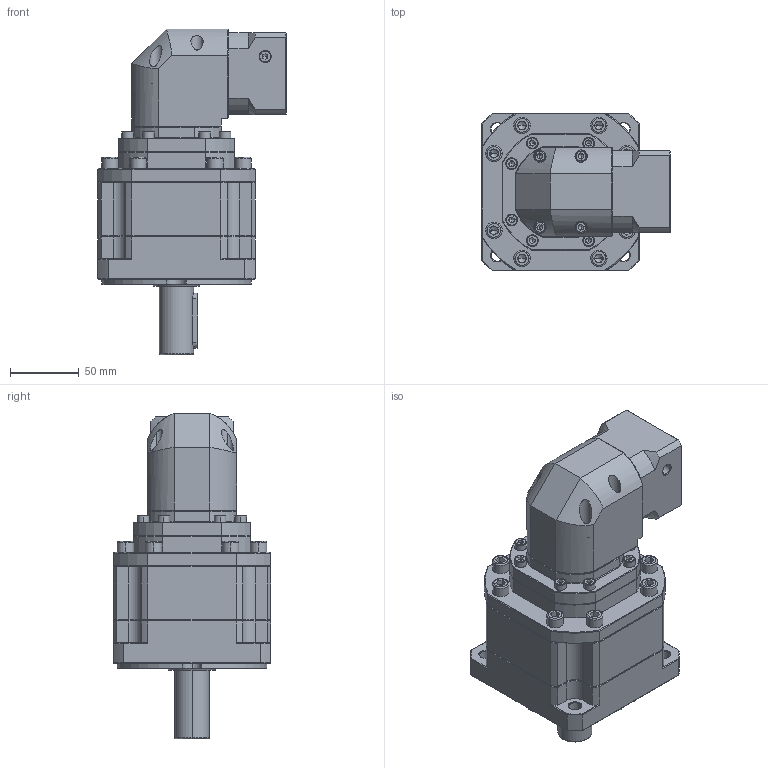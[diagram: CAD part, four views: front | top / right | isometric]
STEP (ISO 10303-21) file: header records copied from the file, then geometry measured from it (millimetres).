
FILE_DESCRIPTION (( 'STEP AP214' ), '1' );
FILE_NAME ('ZBR115A-D25-L3-P2-8-30-46-M4.step', '2023-08-26T14:06:11', ( '' ), ( '' ), 'SwSTEP 2.0', 'SolidWorks 2016', '' );
FILE_SCHEMA (( 'AUTOMOTIVE_DESIGN' ));
Length unit declared in the file: millimetre
Products named in the file (1): ZBR115A-D25-L3-P2-8-30-46-M4
Bounding box: 137.7 x 115 x 237.5 mm (x, y, z)
Volume: 1558710.6 mm3; surface area: 146570.6 mm2
Topology: 6 solids, 6 shells, 2680 faces, 7082 edges, 4527 vertices
Faces by surface type: plane 1297, bspline 507, cylinder 469, cone 387, torus 20
Entity records: 154257 total; most frequent: CARTESIAN_POINT 62444, ORIENTED_EDGE 14056, DIRECTION 11175, EDGE_CURVE 7028, VERTEX_POINT 4527, LINE 4343, VECTOR 4343, AXIS2_PLACEMENT_3D 3416
